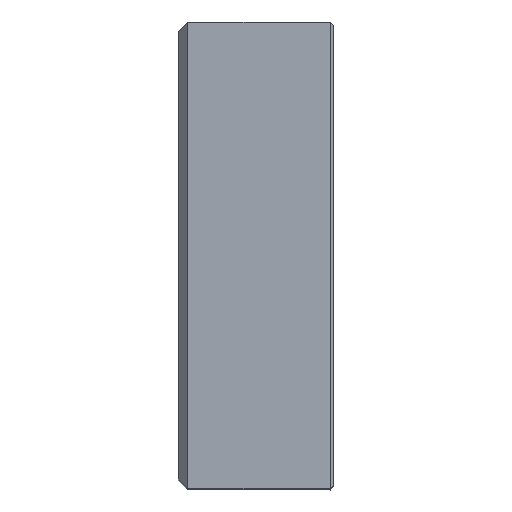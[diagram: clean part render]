
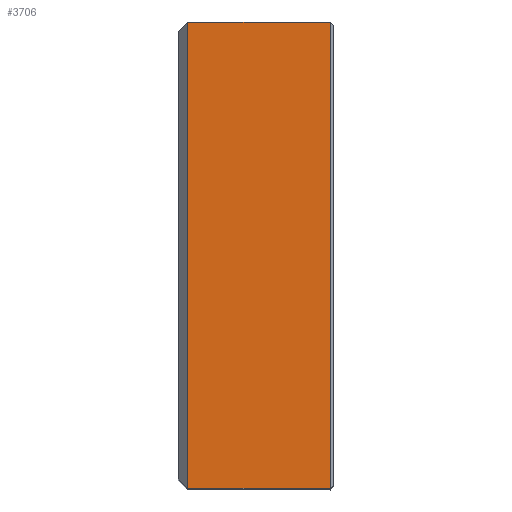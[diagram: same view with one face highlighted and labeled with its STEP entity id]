
A CAD part, top view. The second image highlights one B-rep face of the part: STEP entity #3706.
In plain terms, the highlighted planar face has unit normal (0, 0, 1).
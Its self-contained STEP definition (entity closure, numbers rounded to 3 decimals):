
#319=VERTEX_POINT(' ',#320);
#320=CARTESIAN_POINT('',(49.,-75.,0.));
#329=VERTEX_POINT(' ',#330);
#330=CARTESIAN_POINT('',(49.,75.,0.));
#363=VERTEX_POINT(' ',#364);
#364=CARTESIAN_POINT('',(3.,-75.,0.));
#371=VERTEX_POINT(' ',#372);
#372=CARTESIAN_POINT('',(3.,75.,0.));
#1797=LINE('',#1798,#1799);
#1798=CARTESIAN_POINT('',(49.,80.657,0.));
#1799=VECTOR('',#1800,1.);
#1800=DIRECTION('',(0.,-1.,0.));
#1801=EDGE_CURVE(' ',#329,#319,#1797,.T.);
#1961=LINE('',#1962,#1963);
#1962=CARTESIAN_POINT('',(50.12,-75.,0.));
#1963=VECTOR('',#1964,1.);
#1964=DIRECTION('',(-1.,0.,0.));
#1965=EDGE_CURVE(' ',#319,#363,#1961,.T.);
#2000=LINE('',#2001,#2002);
#2001=CARTESIAN_POINT('',(3.,-88.971,0.));
#2002=VECTOR('',#2003,1.);
#2003=DIRECTION('',(0.,1.,0.));
#2004=EDGE_CURVE(' ',#363,#371,#2000,.T.);
#2005=LINE('',#2006,#2007);
#2006=CARTESIAN_POINT('',(50.12,75.,0.));
#2007=VECTOR('',#2008,1.);
#2008=DIRECTION('',(-1.,0.,0.));
#2009=EDGE_CURVE(' ',#329,#371,#2005,.T.);
#3695=ORIENTED_EDGE('',*,*,#2004,.F.);
#3696=ORIENTED_EDGE('',*,*,#1965,.F.);
#3697=ORIENTED_EDGE('',*,*,#1801,.F.);
#3698=ORIENTED_EDGE('',*,*,#2009,.T.);
#3699=EDGE_LOOP('',(#3695,#3696,#3697,#3698));
#3700=FACE_OUTER_BOUND('',#3699,.T.);
#3701=PLANE('',#3702);
#3702=AXIS2_PLACEMENT_3D('',#3703,#3704,#3705);
#3703=CARTESIAN_POINT('',(0.,-75.,0.));
#3704=DIRECTION('',(0.,0.,1.));
#3705=DIRECTION('',(0.,1.,0.));
#3706=ADVANCED_FACE('',(#3700),#3701,.T.);
